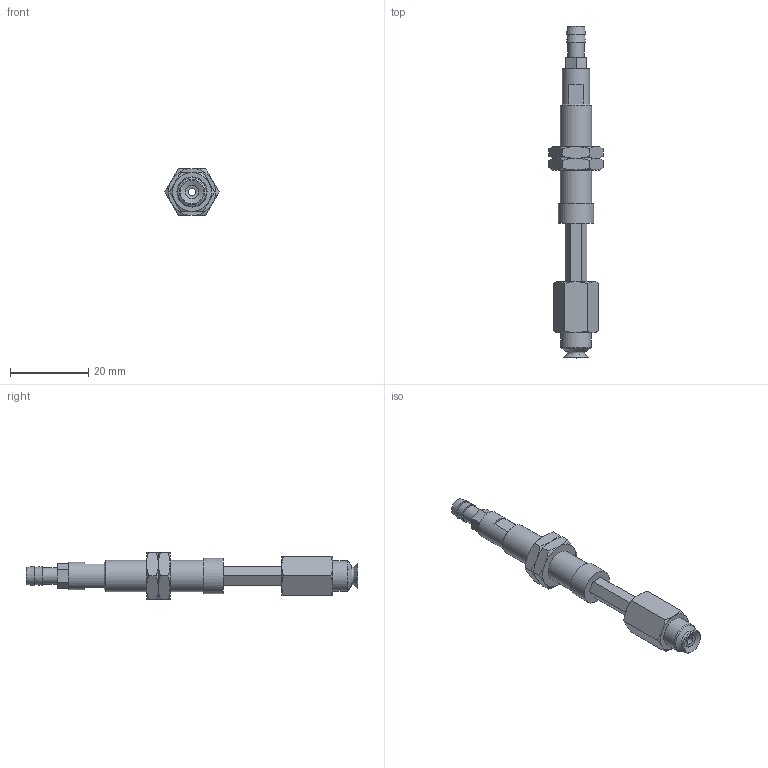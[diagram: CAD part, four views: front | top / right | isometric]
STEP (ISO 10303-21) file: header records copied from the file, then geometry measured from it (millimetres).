
FILE_DESCRIPTION(('STEP AP203'),'1');
FILE_NAME('-T.stp','2025-08-27T02:58:42',(' '),(' '),'Spatial InterOp 3D',' ',' ');
FILE_SCHEMA(('CONFIG_CONTROL_DESIGN'));
Length unit declared in the file: millimetre
Products named in the file (7): BNABPFTH-6A-15-※-T; ADAPTER; NAPATH-10A-15--M; Nut-6A-15-h; NAPFTH-6A-15-FBODY; BPFG-6A-※; T
Assembly tree (7 placements, depth 2):
  BNABPFTH-6A-15-※-T
    ADAPTER
    NAPATH-10A-15--M
    Nut-6A-15-h  x2
    NAPFTH-6A-15-FBODY
    BPFG-6A-※
    T
Bounding box: 13.86 x 85 x 12 mm (x, y, z)
Volume: 3976.4 mm3; surface area: 4981.1 mm2
Topology: 7 solids, 7 shells, 140 faces, 299 edges, 183 vertices
Faces by surface type: plane 64, cone 49, cylinder 17, torus 9, bspline 1
Full cylindrical faces by diameter (mm): 2 x3, 3 x1, 4 x2, 4.134 x1, 4.3 x1, 5 x1, 6 x2, 7 x1, 7.188 x2, 7.7 x1, 8 x1, 9 x1
Entity records: 3465 total; most frequent: CARTESIAN_POINT 792, DIRECTION 486, ORIENTED_EDGE 410, AXIS2_PLACEMENT_3D 205, EDGE_CURVE 205, EDGE_LOOP 176, VERTEX_POINT 147, FACE_OUTER_BOUND 143
